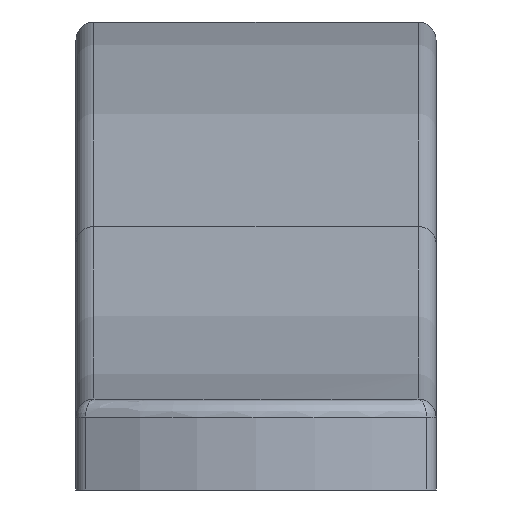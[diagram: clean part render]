
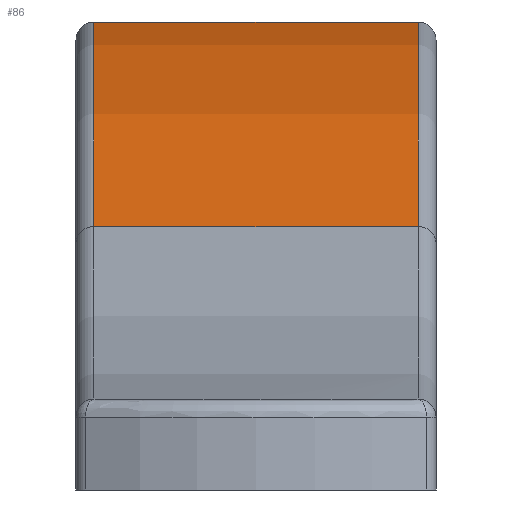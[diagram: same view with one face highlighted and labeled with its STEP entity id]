
A CAD part, front view. The second image highlights one B-rep face of the part: STEP entity #86.
In plain terms, the highlighted cylindrical face has radius 114.783 mm (diameter 229.565 mm), a partial arc.
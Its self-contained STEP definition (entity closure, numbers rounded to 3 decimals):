
#86 = ADVANCED_FACE( '', ( #188 ), #189, .T. );
#188 = FACE_OUTER_BOUND( '', #630, .T. );
#189 = CYLINDRICAL_SURFACE( '', #631, 114.783 );
#630 = EDGE_LOOP( '', ( #984, #985, #986, #987 ) );
#631 = AXIS2_PLACEMENT_3D( '', #988, #989, #990 );
#984 = ORIENTED_EDGE( '', *, *, #1160, .F. );
#985 = ORIENTED_EDGE( '', *, *, #1123, .T. );
#986 = ORIENTED_EDGE( '', *, *, #1211, .T. );
#987 = ORIENTED_EDGE( '', *, *, #1142, .T. );
#988 = CARTESIAN_POINT( '', ( 10., 0., -88.783 ) );
#989 = DIRECTION( '', ( 1., 0., 0. ) );
#990 = DIRECTION( '', ( 0., 0., 1. ) );
#1123 = EDGE_CURVE( '', #1285, #1283, #1286, .T. );
#1142 = EDGE_CURVE( '', #1314, #1301, #1318, .T. );
#1160 = EDGE_CURVE( '', #1285, #1301, #1345, .T. );
#1211 = EDGE_CURVE( '', #1283, #1314, #1426, .T. );
#1283 = VERTEX_POINT( '', #1687 );
#1285 = VERTEX_POINT( '', #1689 );
#1286 = CIRCLE( '', #1690, 114.783 );
#1301 = VERTEX_POINT( '', #1705 );
#1314 = VERTEX_POINT( '', #1720 );
#1318 = CIRCLE( '', #1724, 114.783 );
#1345 = LINE( '', #1863, #1864 );
#1426 = LINE( '', #2052, #2053 );
#1687 = CARTESIAN_POINT( '', ( 9., 49.806, 14.631 ) );
#1689 = CARTESIAN_POINT( '', ( 9., -49.806, 14.631 ) );
#1690 = AXIS2_PLACEMENT_3D( '', #2186, #2187, #2188 );
#1705 = CARTESIAN_POINT( '', ( -9., -49.806, 14.631 ) );
#1720 = CARTESIAN_POINT( '', ( -9., 49.806, 14.631 ) );
#1724 = AXIS2_PLACEMENT_3D( '', #2239, #2240, #2241 );
#1863 = CARTESIAN_POINT( '', ( 10., -49.806, 14.631 ) );
#1864 = VECTOR( '', #2273, 1000. );
#2052 = CARTESIAN_POINT( '', ( 10., 49.806, 14.631 ) );
#2053 = VECTOR( '', #2365, 1000. );
#2186 = CARTESIAN_POINT( '', ( 9., 0., -88.783 ) );
#2187 = DIRECTION( '', ( -1., 0., 0. ) );
#2188 = DIRECTION( '', ( 0., -1., 0. ) );
#2239 = CARTESIAN_POINT( '', ( -9., 0., -88.783 ) );
#2240 = DIRECTION( '', ( 1., 0., 0. ) );
#2241 = DIRECTION( '', ( 0., 1., 0. ) );
#2273 = DIRECTION( '', ( -1., 0., 0. ) );
#2365 = DIRECTION( '', ( -1., 0., 0. ) );
